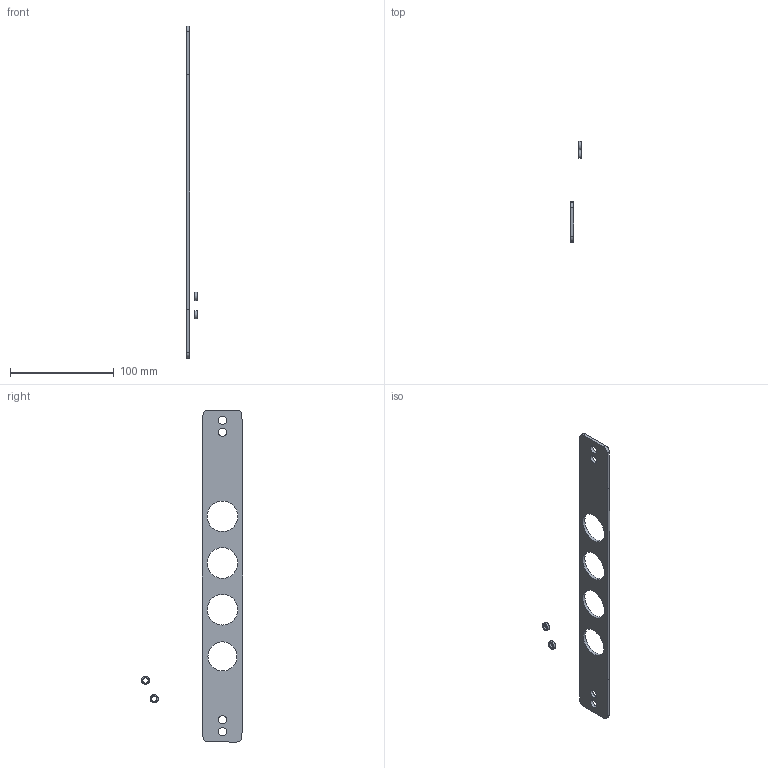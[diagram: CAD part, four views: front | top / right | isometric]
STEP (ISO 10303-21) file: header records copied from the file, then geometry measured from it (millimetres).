
FILE_DESCRIPTION(/* description */ (''),/* implementation_level */ '2;1');
FILE_NAME(/* name */ 'C:\_Vault\Workspace\Projektordner\03-Sensoren\02-STS\20-PITgb Zubehör\03-Kundendaten\2030901_A_PITgb flat seal set.stp',/* time_stamp */ '2021-05-25T10:57:19+02:00',/* author */ ('ES-PE'),/* organization */ (''),/* preprocessor_version */ 'ST-DEVELOPER v18.1',/* originating_system */ 'Autodesk Inventor 2020',/* authorisation */ '');
FILE_SCHEMA (('AUTOMOTIVE_DESIGN { 1 0 10303 214 3 1 1 }'));
Length unit declared in the file: millimetre
Products named in the file (1): 2030901
Bounding box: 10.5 x 97.72 x 320 mm (x, y, z)
Volume: 28689.3 mm3; surface area: 22862.8 mm2
Topology: 3 solids, 3 shells, 38 faces, 101 edges, 69 vertices
Faces by surface type: cylinder 16, plane 14, cone 8
Full cylindrical faces by diameter (mm): 5.2 x2, 8 x6, 28 x1, 29.5 x3
Entity records: 1297 total; most frequent: DIRECTION 232, CARTESIAN_POINT 209, ORIENTED_EDGE 202, EDGE_CURVE 101, AXIS2_PLACEMENT_3D 92, VERTEX_POINT 69, EDGE_LOOP 58, CIRCLE 53
